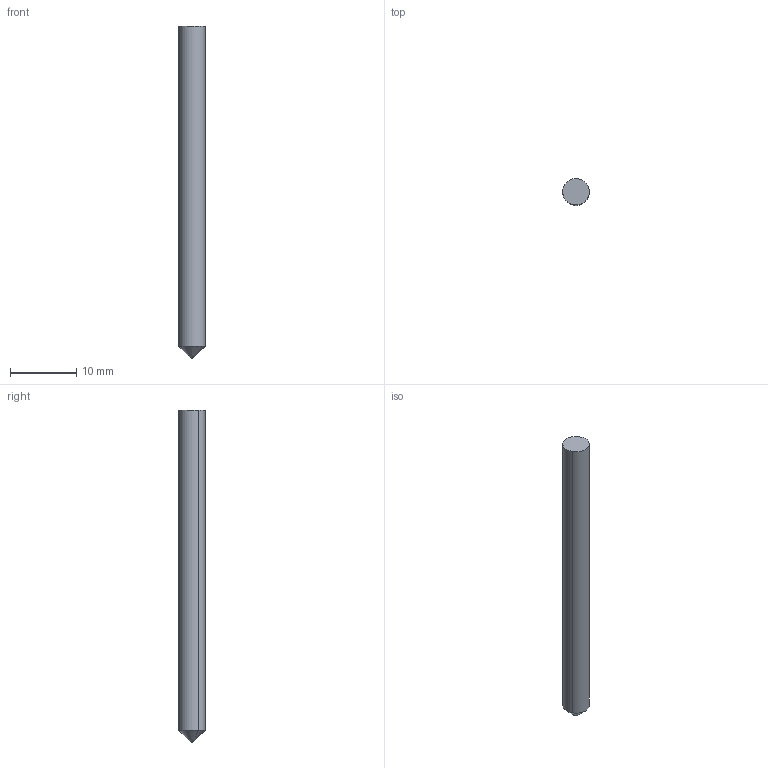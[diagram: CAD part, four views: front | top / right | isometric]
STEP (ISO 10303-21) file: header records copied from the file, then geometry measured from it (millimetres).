
FILE_DESCRIPTION(('CATIA V5 STEP','CAx-IF Rec.Pracs.--- Model Styling and Organization---1.2---2011-12-15'),'2;1');
FILE_NAME('N:\data\isr\design\special1\users\EVA_U\Requests\NPA\5623289_ECD-S2 040-90C04-50\5623289_ECD-S2 040_90C04-50.stp','2014-02-25T13:34:30+00:00',('none'),('none'),'CATIA Version 5 Release 21 SP 5 (IN-10)','CATIA V5 STEP AP214','none');
FILE_SCHEMA(('AUTOMOTIVE_DESIGN { 1 0 10303 214 1 1 1 1 }'));
Length unit declared in the file: millimetre
Products named in the file (1): ECD-S2 040/90C04-50
Bounding box: 4 x 4 x 50 mm (x, y, z)
Volume: 614.2 mm3; surface area: 661.1 mm2
Topology: 2 solids, 2 shells, 12 faces, 20 edges, 12 vertices
Faces by surface type: cone 6, plane 4, cylinder 2
Entity records: 294 total; most frequent: CARTESIAN_POINT 44, DIRECTION 42, ORIENTED_EDGE 40, AXIS2_PLACEMENT_3D 24, EDGE_CURVE 20, ADVANCED_FACE 12, CIRCLE 12, EDGE_LOOP 12
